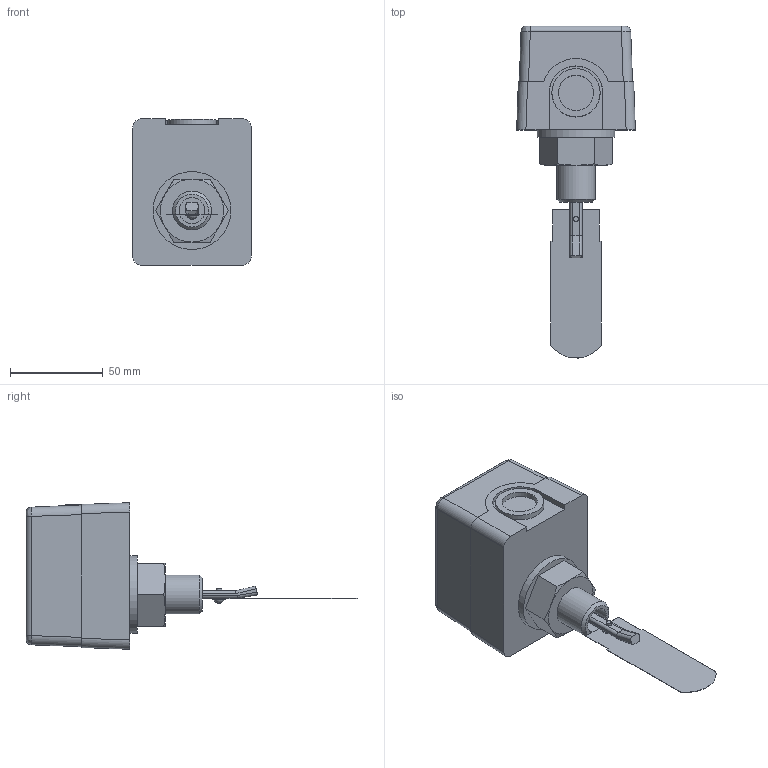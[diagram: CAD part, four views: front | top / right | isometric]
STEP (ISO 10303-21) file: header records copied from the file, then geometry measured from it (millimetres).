
FILE_DESCRIPTION(/* description */ ('РП-1-R1/2 Лопасть 80'),/* implementation_level */ '2;1');
FILE_NAME(/* name */ 'D:\STEP\РП\РП-1-R1_2 Лопасть 80.stp',/* time_stamp */ '2023-05-10T12:45:24+03:00',/* author */ ('Tech'),/* organization */ (''),/* preprocessor_version */ 'ST-DEVELOPER v18.1',/* originating_system */ 'Autodesk Inventor 2021',/* authorisation */ '');
FILE_SCHEMA (('AUTOMOTIVE_DESIGN { 1 0 10303 214 3 1 1 }'));
Length unit declared in the file: millimetre
Products named in the file (1): РП-1-R1/2 Лопасть 
80
Bounding box: 64 x 178.94 x 79 mm (x, y, z)
Volume: 283502.4 mm3; surface area: 35673.8 mm2
Topology: 4 solids, 4 shells, 197 faces, 507 edges, 338 vertices
Faces by surface type: plane 117, cylinder 65, cone 9, bspline 4, torus 1, sphere 1
Full cylindrical faces by diameter (mm): 2.584 x1, 3 x2, 3.2 x1, 4.5 x1, 5.115 x1, 5.5 x1, 7 x1, 14 x1, 19 x1, 20.955 x1, 26 x1, 42 x1
Entity records: 6214 total; most frequent: CARTESIAN_POINT 1198, DIRECTION 1050, ORIENTED_EDGE 1012, EDGE_CURVE 506, AXIS2_PLACEMENT_3D 370, VERTEX_POINT 338, LINE 310, VECTOR 310
